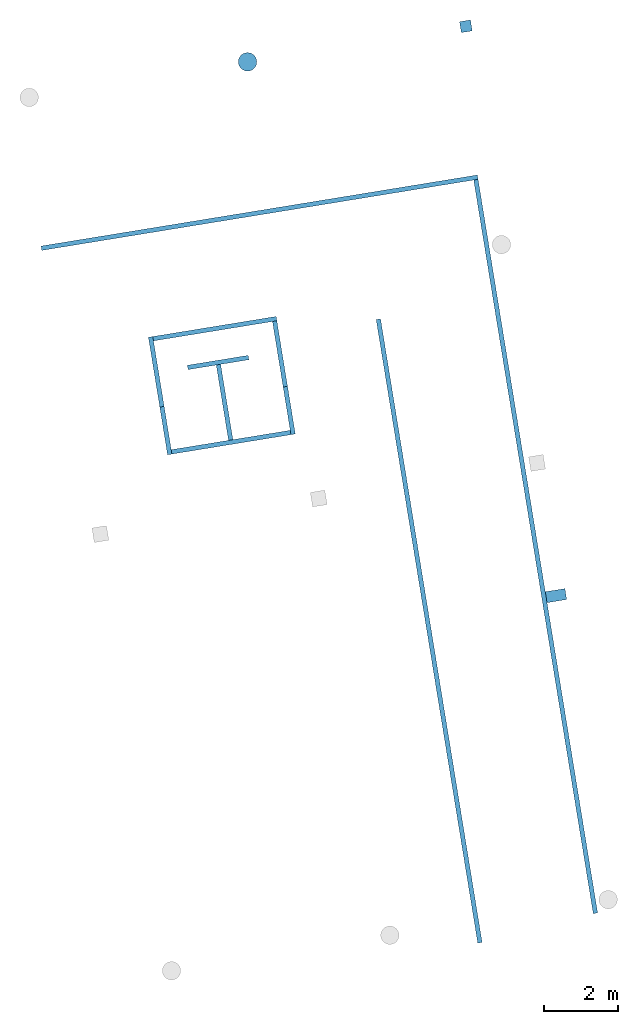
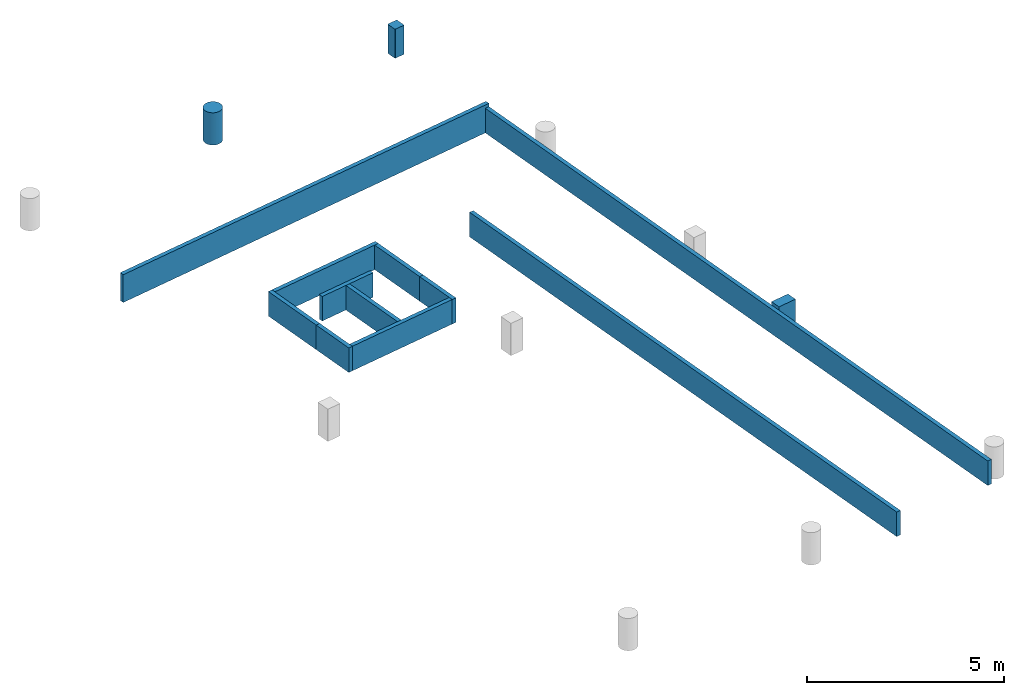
# One storey, part 2 of 2: 12 walls, 2 columns.
"""IFC2X3 building model written with IfcOpenShell, lengths in millimetres."""

from ifc_helpers import new_model, entity, si_unit, converted_unit, derived_unit, direction, frame, origin, origin_with_axes, place, context, subcontext, project, spatial, faceted_brep, material, layer, layer_set, type_object, element, save


model = new_model("IFC2X3")

# Units and contexts
model_context = context("Model", 3, precision=0.01, world=origin(), true_north=direction((6.12323399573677e-17, 1.0)))
plan_context = context("Plan", 3, precision=1e-05, world=origin_with_axes())
body_context = subcontext(model_context, "Body", "Model", "MODEL_VIEW")
ifc_project = project(units=[converted_unit("PLANEANGLEUNIT", "DEGREE", entity("IfcPositiveLengthMeasure", 0.0174532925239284), si_unit("PLANEANGLEUNIT", "RADIAN"), dimensions=[0, 0, 0, 0, 0, 0, 0]), si_unit("AREAUNIT", "SQUARE_METRE"), si_unit("LENGTHUNIT", "METRE", prefix="MILLI"), si_unit("MASSUNIT", "GRAM", prefix="KILO"), si_unit("POWERUNIT", "WATT"), si_unit("PRESSUREUNIT", "PASCAL", prefix="KILO"), si_unit("FORCEUNIT", "NEWTON", prefix="KILO"), si_unit("ELECTRICVOLTAGEUNIT", "VOLT"), si_unit("ELECTRICCURRENTUNIT", "AMPERE"), si_unit("THERMODYNAMICTEMPERATUREUNIT", "DEGREE_CELSIUS"), si_unit("TIMEUNIT", "SECOND"), si_unit("VOLUMEUNIT", "CUBIC_METRE"), derived_unit("LINEARVELOCITYUNIT", [(si_unit("LENGTHUNIT", "METRE"), 1), (si_unit("TIMEUNIT", "SECOND"), -1)]), derived_unit("VOLUMETRICFLOWRATEUNIT", [(si_unit("VOLUMEUNIT", "CUBIC_METRE"), 1), (si_unit("TIMEUNIT", "SECOND"), -1)]), derived_unit("THERMALTRANSMITTANCEUNIT", [(si_unit("POWERUNIT", "WATT"), 1), (si_unit("THERMODYNAMICTEMPERATUREUNIT", "KELVIN"), -1), (si_unit("AREAUNIT", "SQUARE_METRE"), -1)]), derived_unit("SOUNDPRESSUREUNIT", [(si_unit("PRESSUREUNIT", "PASCAL"), 1)])], contexts=[model_context, plan_context])

# Site, building, storey
site_placement = place(None, frame((-305029.896016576, -232111.759730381, 0.0), z_axis=(0.0, 0.0, 1.0), x_axis=(-0.160806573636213, 0.986985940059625, 0.0)))
site = spatial("IfcSite", under=ifc_project, at=site_placement, Name="Default", CompositionType="ELEMENT")
building_placement = place(site_placement, frame((0.0, 0.0, 0.0), z_axis=(0.0, 0.0, 1.0), x_axis=(1.0, -2.77555756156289e-17, 0.0)))
building = spatial("IfcBuilding", under=site, at=building_placement, Name="br001-a-200-1-0001", CompositionType="ELEMENT")
storey_placement = place(building_placement, frame((0.0, 0.0, 51360.0000000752), z_axis=(0.0, 0.0, 1.0), x_axis=(1.0, -2.77555756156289e-17, 0.0)))
storey = spatial("IfcBuildingStorey", under=building, at=storey_placement, Name="H01-Nivå D+0,36", CompositionType="ELEMENT", Elevation=51360.0000000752)

# Columns
ifc_material_1 = material(Name="_NSW Betong")
column_type_1 = type_object("IfcColumnType", Name="NSW Søyle - Betong rund:ø500 mm", PredefinedType="COLUMN", material=ifc_material_1)
column_1_placement = place(storey_placement, frame((1196678.59858442, -728766.378367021, -51360.0000000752), z_axis=(0.0, 0.0, 1.0), x_axis=(1.0, -2.77555756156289e-17, 0.0)))
element("IfcColumn", 1, at=column_1_placement, inside=storey, type_object=column_type_1, Name="NSW Søyle - Betong rund:ø500 mm", ObjectType="NSW Søyle - Betong rund:ø500 mm", context=body_context, shape_type="Brep", body=[
    faceted_brep([(249.999999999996, -3.94377568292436e-13, 54500.0), (246.201938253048, -43.4120444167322, 54500.0), (246.201938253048, -43.4120444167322, 55500.0), (249.999999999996, -3.94377568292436e-13, 55500.0), (246.201938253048, 43.4120444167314, 54500.0), (246.201938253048, 43.4120444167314, 55500.0), (234.923155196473, 85.5050358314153, 54500.0), (234.923155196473, 85.5050358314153, 55500.0), (216.506350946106, 124.999999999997, 54500.0), (216.506350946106, 124.999999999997, 55500.0), (191.511110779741, 160.696902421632, 54500.0), (191.511110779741, 160.696902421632, 55500.0), (160.696902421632, 191.511110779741, 54500.0), (160.696902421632, 191.511110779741, 55500.0), (124.999999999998, 216.506350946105, 54500.0), (124.999999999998, 216.506350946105, 55500.0), (85.5050358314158, 234.923155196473, 54500.0), (85.5050358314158, 234.923155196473, 55500.0), (43.4120444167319, 246.201938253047, 54500.0), (43.4120444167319, 246.201938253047, 55500.0), (6.17269247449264e-14, 249.999999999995, 54500.0), (6.17269247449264e-14, 249.999999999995, 55500.0), (-43.4120444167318, 246.201938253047, 54500.0), (-43.4120444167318, 246.201938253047, 55500.0), (-85.5050358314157, 234.923155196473, 54500.0), (-85.5050358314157, 234.923155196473, 55500.0), (-124.999999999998, 216.506350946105, 54500.0), (-124.999999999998, 216.506350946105, 55500.0), (-160.696902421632, 191.511110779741, 54500.0), (-160.696902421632, 191.511110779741, 55500.0), (-191.511110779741, 160.696902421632, 54500.0), (-191.511110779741, 160.696902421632, 55500.0), (-216.506350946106, 124.999999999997, 54500.0), (-216.506350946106, 124.999999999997, 55500.0), (-234.923155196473, 85.5050358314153, 54500.0), (-234.923155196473, 85.5050358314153, 55500.0), (-246.201938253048, 43.4120444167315, 54500.0), (-246.201938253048, 43.4120444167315, 55500.0), (-249.999999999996, -3.63761398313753e-13, 54500.0), (-249.999999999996, -3.63761398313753e-13, 55500.0), (-246.201938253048, -43.4120444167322, 54500.0), (-246.201938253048, -43.4120444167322, 55500.0), (-234.923155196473, -85.5050358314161, 54500.0), (-234.923155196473, -85.5050358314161, 55500.0), (-216.506350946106, -124.999999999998, 54500.0), (-216.506350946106, -124.999999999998, 55500.0), (-191.511110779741, -160.696902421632, 54500.0), (-191.511110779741, -160.696902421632, 55500.0), (-160.696902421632, -191.511110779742, 54500.0), (-160.696902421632, -191.511110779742, 55500.0), (-124.999999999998, -216.506350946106, 54500.0), (-124.999999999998, -216.506350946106, 55500.0), (-85.5050358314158, -234.923155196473, 54500.0), (-85.5050358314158, -234.923155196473, 55500.0), (-43.4120444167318, -246.201938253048, 54500.0), (-43.4120444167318, -246.201938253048, 55500.0), (4.94584787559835e-16, -249.999999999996, 54500.0), (4.94584787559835e-16, -249.999999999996, 55500.0), (43.4120444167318, -246.201938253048, 54500.0), (43.4120444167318, -246.201938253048, 55500.0), (85.5050358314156, -234.923155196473, 54500.0), (85.5050358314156, -234.923155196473, 55500.0), (124.999999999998, -216.506350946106, 54500.0), (124.999999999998, -216.506350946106, 55500.0), (160.696902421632, -191.511110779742, 54500.0), (160.696902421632, -191.511110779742, 55500.0), (191.511110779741, -160.696902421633, 54500.0), (191.511110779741, -160.696902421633, 55500.0), (216.506350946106, -124.999999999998, 54500.0), (216.506350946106, -124.999999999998, 55500.0), (234.923155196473, -85.5050358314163, 54500.0), (234.923155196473, -85.5050358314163, 55500.0)], [[[0, 1, 2, 3]], [[4, 0, 3, 5]], [[6, 4, 5, 7]], [[8, 6, 7, 9]], [[10, 8, 9, 11]], [[12, 10, 11, 13]], [[14, 12, 13, 15]], [[16, 14, 15, 17]], [[18, 16, 17, 19]], [[20, 18, 19, 21]], [[22, 20, 21, 23]], [[24, 22, 23, 25]], [[26, 24, 25, 27]], [[28, 26, 27, 29]], [[30, 28, 29, 31]], [[32, 30, 31, 33]], [[34, 32, 33, 35]], [[36, 34, 35, 37]], [[38, 36, 37, 39]], [[40, 38, 39, 41]], [[42, 40, 41, 43]], [[44, 42, 43, 45]], [[46, 44, 45, 47]], [[48, 46, 47, 49]], [[50, 48, 49, 51]], [[52, 50, 51, 53]], [[54, 52, 53, 55]], [[56, 54, 55, 57]], [[58, 56, 57, 59]], [[60, 58, 59, 61]], [[62, 60, 61, 63]], [[64, 62, 63, 65]], [[66, 64, 65, 67]], [[68, 66, 67, 69]], [[70, 68, 69, 71]], [[1, 70, 71, 2]], [[3, 2, 71, 69, 67, 65, 63, 61, 59, 57, 55, 53, 51, 49, 47, 45, 43, 41, 39, 37, 35, 33, 31, 29, 27, 25, 23, 21, 19, 17, 15, 13, 11, 9, 7, 5]], [[4, 6, 8, 10, 12, 14, 16, 18, 20, 22, 24, 26, 28, 30, 32, 34, 36, 38, 40, 42, 44, 46, 48, 50, 52, 54, 56, 58, 60, 62, 64, 66, 68, 70, 1, 0]]], orient=[[False], [False], [False], [False], [False], [False], [False], [False], [False], [False], [False], [False], [False], [False], [False], [False], [False], [False], [False], [False], [False], [False], [False], [False], [False], [False], [False], [False], [False], [False], [False], [False], [False], [False], [False], [False], [False], [False]]),
])
column_type_2 = type_object("IfcColumnType", Name="NSW Søyle - Betong rektangulær:300 x 300 mm", PredefinedType="COLUMN", material=ifc_material_1)
column_2_placement = place(storey_placement, frame((1196578.59858442, -734666.37836702, -51360.0000000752), z_axis=(0.0, 0.0, 1.0), x_axis=(1.0, -2.77555756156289e-17, 0.0)))
element("IfcColumn", 2, at=column_2_placement, inside=storey, type_object=column_type_2, Name="NSW Søyle - Betong rektangulær:300 x 300 mm", ObjectType="NSW Søyle - Betong rektangulær:300 x 300 mm", context=body_context, shape_type="Brep", body=[
    faceted_brep([(240.000000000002, -250.0, 54500.0), (-39.9999999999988, -250.0, 54500.0), (-39.9999999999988, -250.0, 55400.0), (240.000000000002, -250.0, 55400.0), (250.0, -240.0, 54500.0), (250.0, -240.0, 55400.0), (250.0, 40.0000000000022, 54500.0), (250.0, 40.0000000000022, 55400.0), (240.0, 50.0, 54500.0), (240.0, 50.0, 55400.0), (-40.0000000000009, 50.0, 54500.0), (-40.0000000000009, 50.0, 55400.0), (-50.0000000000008, 39.9999999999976, 54500.0), (-50.0000000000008, 39.9999999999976, 55400.0), (-50.0000000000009, -240.0, 54500.0), (-50.0000000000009, -240.0, 55400.0)], [[[0, 1, 2, 3]], [[4, 0, 3, 5]], [[6, 4, 5, 7]], [[8, 6, 7, 9]], [[10, 8, 9, 11]], [[12, 10, 11, 13]], [[14, 12, 13, 15]], [[1, 14, 15, 2]], [[3, 2, 15, 13, 11, 9, 7, 5]], [[4, 6, 8, 10, 12, 14, 1, 0]]], orient=[[False], [False], [False], [False], [False], [False], [False], [False], [False], [False]]),
])

# Walls
ifc_material_2 = material(Name="_NSW Standard")
ifc_layer_1 = layer(ifc_material_2, 300.0)
ifc_layer_set_1 = layer_set([ifc_layer_1], Name="Basic Wall:A242 - Standard 300")
wall_type_1 = type_object("IfcWallType", Name="Basic Wall:A242 - Standard 300", PredefinedType="STANDARD", material=ifc_layer_set_1)
wall_1_placement = place(storey_placement, frame((1181043.59858328, -740075.366051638, -7.5167918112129e-08), z_axis=(0.0, 0.0, 1.0), x_axis=(2.77555756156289e-17, 1.0, 0.0)))
element("IfcWall", 3, at=wall_1_placement, inside=storey, type_object=wall_type_1, Name="Basic Wall:A242 - Standard 300", ObjectType="Basic Wall:A242 - Standard 300", context=body_context, shape_type="Brep", body=[
    faceted_brep([(5649.9876846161, 149.999999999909, 3140.00000000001), (5649.9876846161, -149.999999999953, 3140.00000000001), (5649.9876846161, -149.999999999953, 4002.00000000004), (5649.9876846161, 149.999999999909, 4002.00000000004), (5110.96654565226, 149.999999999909, 4002.00000000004), (5110.96654565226, 149.999999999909, 3140.00000000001), (5110.96654565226, -149.999999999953, 3140.00000000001), (5110.96654565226, -149.999999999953, 4002.00000000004)], [[[0, 1, 2, 3]], [[4, 5, 0, 3]], [[1, 6, 7, 2]], [[7, 4, 3, 2]], [[5, 4, 7, 6]], [[6, 1, 0, 5]]], orient=[[False], [False], [False], [False], [False], [False]]),
])
ifc_layer_2 = layer(ifc_material_2, 120.0)
ifc_layer_set_2 = layer_set([ifc_layer_2], Name="Basic Wall:NY IV120")
wall_type_2 = type_object("IfcWallType", Name="Basic Wall:NY IV120", PredefinedType="STANDARD", material=ifc_layer_set_2)
wall_2_placement = place(storey_placement, frame((1186508.59858442, -724971.363220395, 0.0), z_axis=(0.0, 0.0, 1.0), x_axis=(1.0, -2.77555756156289e-17, 0.0)))
element("IfcWall", 4, at=wall_2_placement, inside=storey, type_object=wall_type_2, Name="Basic Wall:NY IV120", ObjectType="Basic Wall:NY IV120", context=body_context, shape_type="Brep", body=[
    faceted_brep([(1310.23922893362, 60.0000000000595, 3139.99999992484), (1310.23922893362, -60.0000000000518, 3139.99999992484), (1310.23922893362, -60.0000000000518, 3900.00000000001), (1310.23922893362, 60.0000000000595, 3900.00000000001), (-1.13686837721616e-13, 60.0000000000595, 3139.99999992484), (-1.13686837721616e-13, 60.0000000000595, 3900.00000000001), (-1.13686837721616e-13, -60.0000000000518, 3139.99999992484), (-1.13686837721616e-13, -60.0000000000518, 3900.00000000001)], [[[0, 1, 2, 3]], [[4, 0, 3, 5]], [[6, 4, 5, 7]], [[1, 6, 7, 2]], [[3, 2, 7, 5]], [[4, 6, 1, 0]]], orient=[[False], [False], [False], [False], [False], [False]]),
])
wall_3_placement = place(storey_placement, frame((1186568.59858442, -728301.363220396, 0.0), z_axis=(0.0, 0.0, 1.0), x_axis=(2.77555756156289e-17, 1.0, 0.0)))
element("IfcWall", 5, at=wall_3_placement, inside=storey, type_object=wall_type_2, Name="Basic Wall:NY IV120", ObjectType="Basic Wall:NY IV120", context=body_context, shape_type="Brep", body=[
    faceted_brep([(3270.00000000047, 60.0000000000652, 3139.99999992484), (3270.00000000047, -60.0000000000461, 3139.99999992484), (3270.00000000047, -60.0000000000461, 3900.00000000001), (3270.00000000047, 60.0000000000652, 3900.00000000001), (0.0, 60.0000000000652, 3139.99999992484), (0.0, 60.0000000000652, 3900.00000000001), (0.0, -60.0000000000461, 3139.99999992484), (0.0, -60.0000000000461, 3900.00000000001)], [[[0, 1, 2, 3]], [[4, 0, 3, 5]], [[6, 4, 5, 7]], [[1, 6, 7, 2]], [[3, 2, 7, 5]], [[4, 6, 1, 0]]], orient=[[False], [False], [False], [False], [False], [False]]),
])
wall_4_placement = place(storey_placement, frame((1186628.59858442, -726666.363220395, 0.0), z_axis=(0.0, 0.0, 1.0), x_axis=(1.0, -2.77555756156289e-17, 0.0)))
element("IfcWall", 6, at=wall_4_placement, inside=storey, type_object=wall_type_2, Name="Basic Wall:NY IV120", ObjectType="Basic Wall:NY IV120", context=body_context, shape_type="Brep", body=[
    faceted_brep([(2070.23922893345, 60.0000000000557, 3139.99999992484), (2070.23922893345, -60.0000000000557, 3139.99999992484), (2070.23922893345, -60.0000000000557, 3900.00000000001), (2070.23922893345, 60.0000000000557, 3900.00000000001), (0.0, 60.0000000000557, 3139.99999992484), (0.0, 60.0000000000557, 3900.00000000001), (0.0, -60.0000000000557, 3139.99999992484), (0.0, -60.0000000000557, 3900.00000000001)], [[[0, 1, 2, 3]], [[4, 0, 3, 5]], [[6, 4, 5, 7]], [[1, 6, 7, 2]], [[3, 2, 7, 5]], [[4, 6, 1, 0]]], orient=[[False], [False], [False], [False], [False], [False]]),
])
wall_5_placement = place(storey_placement, frame((1188758.83781335, -725831.363220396, 0.0), z_axis=(0.0, 0.0, 1.0), x_axis=(-2.77555756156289e-17, -1.0, 0.0)))
element("IfcWall", 7, at=wall_5_placement, inside=storey, type_object=wall_type_2, Name="Basic Wall:NY IV120", ObjectType="Basic Wall:NY IV120", context=body_context, shape_type="Brep", body=[
    faceted_brep([(1670.0, 60.0000000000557, 3139.99999992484), (1670.0, -60.0000000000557, 3139.99999992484), (1670.0, -60.0000000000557, 3900.00000000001), (1670.0, 60.0000000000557, 3900.00000000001), (0.0, 60.0000000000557, 3139.99999992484), (0.0, 60.0000000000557, 3900.00000000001), (0.0, -60.0000000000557, 3139.99999992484), (0.0, -60.0000000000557, 3900.00000000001)], [[[0, 1, 2, 3]], [[4, 0, 3, 5]], [[6, 4, 5, 7]], [[1, 6, 7, 2]], [[3, 2, 7, 5]], [[4, 6, 1, 0]]], orient=[[False], [False], [False], [False], [False], [False]]),
])
wall_6_placement = place(storey_placement, frame((1189218.83781335, -731145.37836702, 0.0), z_axis=(0.0, 0.0, 1.0), x_axis=(-1.0, 2.77555756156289e-17, 0.0)))
element("IfcWall", 8, at=wall_6_placement, inside=storey, type_object=wall_type_2, Name="Basic Wall:NY IV120", ObjectType="Basic Wall:NY IV120", context=body_context, shape_type="Brep", body=[
    faceted_brep([(17135.2392289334, 60.0000000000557, 3139.99999992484), (17135.2392289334, -60.0000000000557, 3139.99999992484), (17135.2392289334, -60.0000000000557, 3900.00000000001), (17135.2392289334, 60.0000000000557, 3900.00000000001), (0.0, 60.0000000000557, 3139.99999992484), (0.0, 60.0000000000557, 3900.00000000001), (0.0, -60.0000000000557, 3139.99999992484), (0.0, -60.0000000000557, 3900.00000000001)], [[[0, 1, 2, 3]], [[4, 0, 3, 5]], [[6, 4, 5, 7]], [[1, 6, 7, 2]], [[3, 2, 7, 5]], [[4, 6, 1, 0]]], orient=[[False], [False], [False], [False], [False], [False]]),
])
wall_7_placement = place(storey_placement, frame((1187818.83781335, -728361.363220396, 0.0), z_axis=(0.0, 0.0, 1.0), x_axis=(-1.0, 2.77555756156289e-17, 0.0)))
element("IfcWall", 9, at=wall_7_placement, inside=storey, type_object=wall_type_2, Name="Basic Wall:NY IV120", ObjectType="Basic Wall:NY IV120", context=body_context, shape_type="Brep", body=[
    faceted_brep([(1310.23922893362, 60.0000000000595, 3139.99999992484), (1310.23922893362, -60.0000000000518, 3139.99999992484), (1310.23922893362, -60.0000000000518, 3900.00000000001), (1310.23922893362, 60.0000000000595, 3900.00000000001), (-1.13686837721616e-13, 60.0000000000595, 3139.99999992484), (-1.13686837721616e-13, 60.0000000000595, 3900.00000000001), (-1.13686837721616e-13, -60.0000000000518, 3139.99999992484), (-1.13686837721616e-13, -60.0000000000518, 3900.00000000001)], [[[0, 1, 2, 3]], [[4, 0, 3, 5]], [[6, 4, 5, 7]], [[1, 6, 7, 2]], [[3, 2, 7, 5]], [[4, 6, 1, 0]]], orient=[[False], [False], [False], [False], [False], [False]]),
])
ifc_layer_3 = layer(ifc_material_2, 120.0)
ifc_layer_set_3 = layer_set([ifc_layer_3], Name="Basic Wall:NY- lydabsorberende vegg passkontroll")
wall_type_3 = type_object("IfcWallType", Name="Basic Wall:NY- lydabsorberende vegg passkontroll", PredefinedType="STANDARD", material=ifc_layer_set_3)
wall_8_placement = place(storey_placement, frame((1189678.83781335, -725031.363220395, 0.0), z_axis=(0.0, 0.0, 1.0), x_axis=(-2.77555756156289e-17, -1.0, 0.0)))
element("IfcWall", 10, at=wall_8_placement, inside=storey, type_object=wall_type_3, Name="Basic Wall:NY- lydabsorberende vegg passkontroll", ObjectType="Basic Wall:NY- lydabsorberende vegg passkontroll", context=body_context, shape_type="Brep", body=[
    faceted_brep([(3390.00000000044, 60.0000000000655, 3139.99999992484), (3390.00000000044, -60.0000000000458, 3139.99999992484), (3390.00000000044, -60.0000000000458, 3900.00000000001), (3390.00000000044, 60.0000000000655, 3900.00000000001), (0.0, 60.0000000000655, 3139.99999992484), (0.0, 60.0000000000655, 3900.00000000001), (0.0, -60.0000000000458, 3139.99999992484), (0.0, -60.0000000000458, 3900.00000000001)], [[[0, 1, 2, 3]], [[4, 0, 3, 5]], [[6, 4, 5, 7]], [[1, 6, 7, 2]], [[3, 2, 7, 5]], [[4, 6, 1, 0]]], orient=[[False], [False], [False], [False], [False], [False]]),
])
wall_9_placement = place(storey_placement, frame((1189618.83781335, -728361.363220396, 0.0), z_axis=(0.0, 0.0, 1.0), x_axis=(-1.0, 2.77555756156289e-17, 0.0)))
element("IfcWall", 11, at=wall_9_placement, inside=storey, type_object=wall_type_3, Name="Basic Wall:NY- lydabsorberende vegg passkontroll", ObjectType="Basic Wall:NY- lydabsorberende vegg passkontroll", context=body_context, shape_type="Brep", body=[
    faceted_brep([(1799.99999999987, 60.0000000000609, 3139.99999992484), (1799.99999999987, -60.0000000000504, 3139.99999992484), (1799.99999999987, -60.0000000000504, 3900.00000000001), (1799.99999999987, 60.0000000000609, 3900.00000000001), (1.13686837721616e-13, 60.0000000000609, 3139.99999992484), (1.13686837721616e-13, 60.0000000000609, 3900.00000000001), (1.13686837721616e-13, -60.0000000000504, 3139.99999992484), (1.13686837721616e-13, -60.0000000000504, 3900.00000000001)], [[[0, 1, 2, 3]], [[4, 0, 3, 5]], [[6, 4, 5, 7]], [[1, 6, 7, 2]], [[3, 2, 7, 5]], [[4, 6, 1, 0]]], orient=[[False], [False], [False], [False], [False], [False]]),
])
wall_10_placement = place(storey_placement, frame((1187818.83781335, -724971.363220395, 0.0), z_axis=(0.0, 0.0, 1.0), x_axis=(1.0, -2.77555756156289e-17, 0.0)))
element("IfcWall", 12, at=wall_10_placement, inside=storey, type_object=wall_type_3, Name="Basic Wall:NY- lydabsorberende vegg passkontroll", ObjectType="Basic Wall:NY- lydabsorberende vegg passkontroll", context=body_context, shape_type="Brep", body=[
    faceted_brep([(1919.99999999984, 60.0000000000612, 3139.99999992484), (1919.99999999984, -60.0000000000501, 3139.99999992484), (1919.99999999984, -60.0000000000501, 3900.00000000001), (1919.99999999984, 60.0000000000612, 3900.00000000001), (1.13686837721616e-13, 60.0000000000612, 3139.99999992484), (1.13686837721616e-13, 60.0000000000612, 3900.00000000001), (1.13686837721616e-13, -60.0000000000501, 3139.99999992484), (1.13686837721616e-13, -60.0000000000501, 3900.00000000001)], [[[0, 1, 2, 3]], [[4, 0, 3, 5]], [[6, 4, 5, 7]], [[1, 6, 7, 2]], [[3, 2, 7, 5]], [[4, 6, 1, 0]]], orient=[[False], [False], [False], [False], [False], [False]]),
])
ifc_layer_4 = layer(ifc_material_2, 120.0)
ifc_layer_set_4 = layer_set([ifc_layer_4], Name="Basic Wall:NY IV120 EI60")
wall_type_4 = type_object("IfcWallType", Name="Basic Wall:NY IV120 EI60", PredefinedType="STANDARD", material=ifc_layer_set_4)
wall_11_placement = place(storey_placement, frame((1192588.59858442, -716751.37836702, -7.5167918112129e-08), z_axis=(0.0, 0.0, 1.0), x_axis=(-2.77555756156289e-17, -1.0, 0.0)))
element("IfcWall", 13, at=wall_11_placement, inside=storey, type_object=wall_type_4, Name="Basic Wall:NY IV120 EI60", ObjectType="Basic Wall:NY IV120 EI60", context=body_context, shape_type="Brep", body=[
    faceted_brep([(17674.0000000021, 60.0000000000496, 3140.00000000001), (17674.0000000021, -60.0000000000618, 3140.00000000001), (17674.0000000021, -60.0000000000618, 4002.00000000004), (17674.0000000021, 60.0000000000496, 4002.00000000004), (5685.70107222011, 60.0000000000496, 4002.00000000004), (5685.70107222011, 60.0000000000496, 3140.00000000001), (5685.70107222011, -60.0000000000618, 3140.00000000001), (5685.70107222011, -60.0000000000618, 4002.00000000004)], [[[0, 1, 2, 3]], [[4, 5, 0, 3]], [[1, 6, 7, 2]], [[7, 4, 3, 2]], [[5, 4, 7, 6]], [[6, 1, 0, 5]]], orient=[[False], [False], [False], [False], [False], [False]]),
])
wall_12_placement = place(storey_placement, frame((1192528.59858442, -734365.378367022, 0.0), z_axis=(0.0, 0.0, 1.0), x_axis=(-1.0, 2.77555756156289e-17, 0.0)))
element("IfcWall", 14, at=wall_12_placement, inside=storey, type_object=wall_type_4, Name="Basic Wall:NY IV120 EI60", ObjectType="Basic Wall:NY IV120 EI60", context=body_context, shape_type="Brep", body=[
    faceted_brep([(20160.0000000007, 60.0000000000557, 3139.99999992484), (20160.0000000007, -60.0000000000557, 3139.99999992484), (20160.0000000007, -60.0000000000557, 3900.00000000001), (20160.0000000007, 60.0000000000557, 3900.00000000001), (0.0, 60.0000000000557, 3139.99999992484), (0.0, 60.0000000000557, 3900.00000000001), (0.0, -60.0000000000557, 3139.99999992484), (0.0, -60.0000000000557, 3900.00000000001)], [[[0, 1, 2, 3]], [[4, 0, 3, 5]], [[6, 4, 5, 7]], [[1, 6, 7, 2]], [[3, 2, 7, 5]], [[4, 6, 1, 0]]], orient=[[False], [False], [False], [False], [False], [False]]),
])

save(model, "model.ifc")
